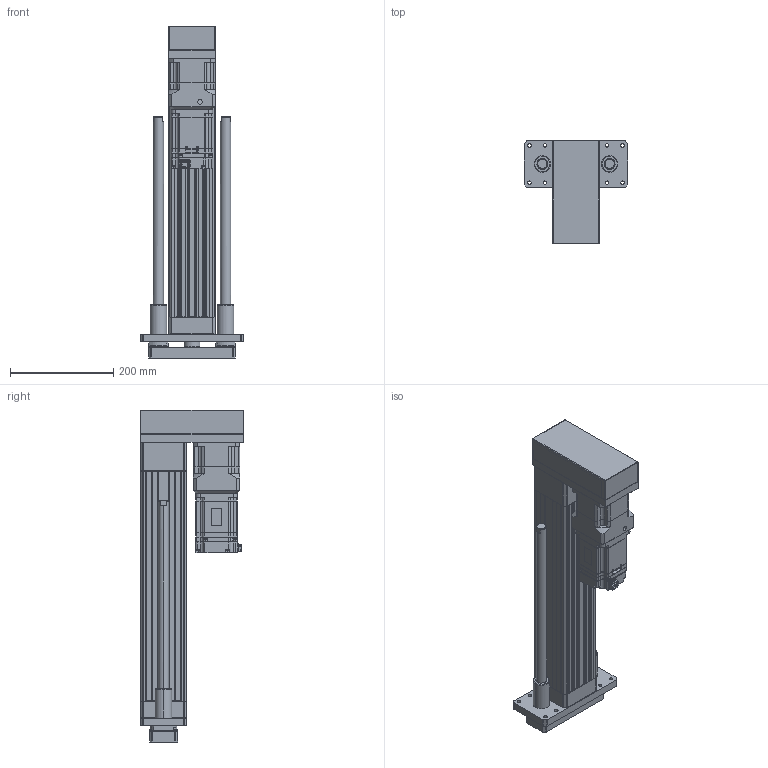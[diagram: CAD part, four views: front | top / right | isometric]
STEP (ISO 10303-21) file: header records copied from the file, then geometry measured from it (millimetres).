
FILE_DESCRIPTION (( 'STEP AP203' ), '1' );
FILE_NAME ('ANS090H-GP300-05(10)(25)-W75G05.STEP', '2019-03-18T03:05:05', ( 'user' ), ( '' ), 'SwSTEP 2.0', 'SolidWorks 2013', '' );
FILE_SCHEMA (( 'CONFIG_CONTROL_DESIGN' ));
Length unit declared in the file: millimetre
Products named in the file (5): AB090-005-S1-P2[YASKAWA SGMJV08A]; ANS090H-GP300-05(10)(25)-W75G05; ANS090H GP300 VER2; ANS090 ROD ST300-G; SGMJV_08A_A21
Assembly tree (4 placements, depth 2):
  ANS090H-GP300-05(10)(25)-W75G05
    ANS090H GP300 VER2
    ANS090 ROD ST300-G
    SGMJV_08A_A21
    AB090-005-S1-P2[YASKAWA SGMJV08A]
Bounding box: 200 x 200 x 642 mm (x, y, z)
Volume: 4150183.4 mm3; surface area: 843983.3 mm2
Topology: 3 solids, 14 shells, 1545 faces, 4030 edges, 2588 vertices
Faces by surface type: plane 828, cylinder 529, cone 164, bspline 12, sphere 8, torus 4
Entity records: 48188 total; most frequent: CARTESIAN_POINT 9040, DIRECTION 8191, ORIENTED_EDGE 7932, EDGE_CURVE 4010, AXIS2_PLACEMENT_3D 2779, VECTOR 2633, LINE 2633, VERTEX_POINT 2588
